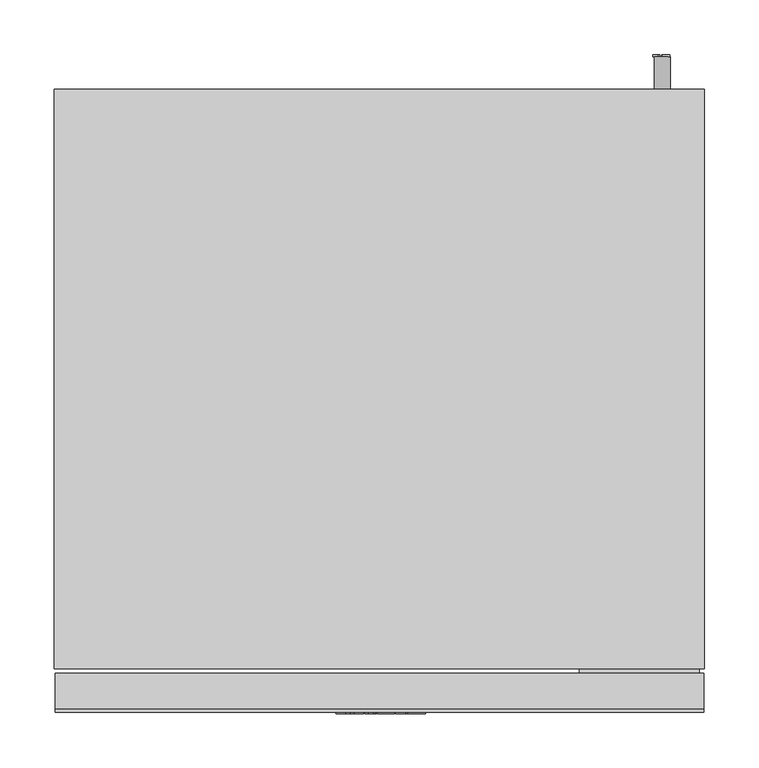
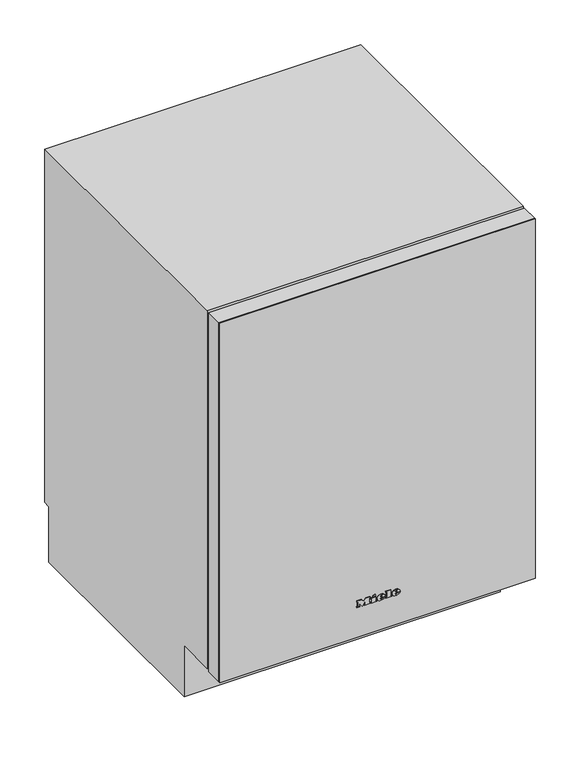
"""IFC4 building model written with IfcOpenShell, lengths in millimetres: proxy geometry, 10028650_USA_KWT6312UGS : 36631200_USA_10028650_KWT6312UGS."""

from ifc_helpers import new_model, si_unit, point, frame, frame_2d, origin, place, context, project, spatial, polyline, circle_curve, ellipse_curve, trimmed, segment, composite_curve, outline, extrude, faceted_brep, source, transform, mapped, element, save
from ifc_brep_helpers import plane_surface, cylinder_surface, revolved_surface, extruded_surface, advanced_brep


def specialty_equipment_6b9b5b4a(model_context):
    return source(origin(), model_context, "Body", "SolidModel", [
        faceted_brep([(233.5, 72.832547, 428.8783049), (233.5, 487.167453, 428.8783049), (203.5, 487.167453, 428.8783049), (203.5, 474.7903394, 428.8783049), (168.5, 474.7903394, 428.8783049), (168.5, 487.167453, 428.8783049), (138.5, 487.167453, 428.8783049), (138.5, 72.832547, 428.8783049), (168.5, 72.832547, 428.8783049), (168.5, 84.832547, 428.8783049), (203.5, 84.832547, 428.8783049), (203.5, 72.832547, 428.8783049), (138.5, 72.832547, 413.8783049), (138.5, 487.167453, 413.8783049), (233.5, 487.167453, 413.8783049), (233.5, 72.832547, 413.8783049), (203.5, 72.832547, 643.8783049), (168.5, 72.832547, 643.8783049), (168.5, 487.167453, 643.8783049), (203.5, 487.167453, 643.8783049), (203.5, 84.832547, 643.8783049), (193.5, 84.832547, 643.8783049), (193.5, 474.7903394, 643.8783049), (203.5, 474.7903394, 643.8783049), (168.5, 474.7903394, 643.8783049), (187.2040205, 474.7903394, 643.8783049), (187.2040205, 84.832547, 643.8783049), (168.5, 84.832547, 643.8783049), (187.2040205, 84.832547, 593.8783049), (168.5, 84.832547, 593.8783049), (168.5, 84.832547, 583.8783049), (193.5, 84.832547, 583.8783049), (168.5, 474.7903394, 593.8783049), (168.5, 474.7903394, 583.8783049), (193.5, 474.7903394, 583.8783049), (187.2040205, 474.7903394, 593.8783049)], [[[0, 1, 2, 3, 4, 5, 6, 7, 8, 9, 10, 11]], [[12, 13, 14, 15]], [[12, 15, 0, 11, 16, 17, 8, 7]], [[1, 0, 15, 14]], [[14, 13, 6, 5, 18, 19, 2, 1]], [[7, 6, 13, 12]], [[17, 16, 20, 21, 22, 23, 19, 18, 24, 25, 26, 27]], [[20, 16, 11, 10]], [[27, 26, 28, 29]], [[20, 10, 9, 30, 31, 21]], [[17, 27, 29, 32, 24, 18, 5, 4, 33, 30, 9, 8]], [[34, 31, 30, 33]], [[22, 21, 31, 34]], [[32, 29, 28, 35]], [[19, 23, 3, 2]], [[25, 24, 32, 35]], [[3, 23, 22, 34, 33, 4]], [[26, 25, 35, 28]]]),
        faceted_brep([(258.5, 50.0, 413.8783049), (258.5, 510.0, 413.8783049), (-258.5, 510.0, 413.8783049), (-258.5, 50.0, 413.8783049), (-101.5, 91.5, 413.8783049), (-214.5, 91.5, 413.8783049), (-214.5, 171.5, 413.8783049), (-101.5, 171.5, 413.8783049), (-101.5, 189.0, 413.8783049), (-214.5, 189.0, 413.8783049), (-214.5, 271.0, 413.8783049), (-101.5, 271.0, 413.8783049), (-101.5, 289.0, 413.8783049), (-214.5, 289.0, 413.8783049), (-214.5, 369.0, 413.8783049), (-101.5, 369.0, 413.8783049), (-101.5, 387.0, 413.8783049), (-214.5, 387.0, 413.8783049), (-214.5, 467.0, 413.8783049), (-101.5, 467.0, 413.8783049), (-258.5, 50.0, 404.3057414), (-258.5, 510.0, 404.3057414), (258.5, 510.0, 404.3057414), (258.5, 50.0, 404.3057414), (-93.5, 80.0, 404.3057414), (-93.5, 480.0, 404.3057414), (-222.5, 480.0, 404.3057414), (-222.5, 80.0, 404.3057414), (-258.5, 40.0, 396.2718916), (258.5, 40.0, 396.2718916), (258.5, 40.0, 399.2718916), (-258.5, 40.0, 399.2718916), (258.5, 40.0, 422.2718916), (-258.5, 40.0, 422.2718916), (-258.5, 40.0, 419.2718916), (258.5, 40.0, 419.2718916), (258.5, 50.0, 396.2718916), (258.5, 510.0, 396.2718916), (258.5, 520.0, 396.2718916), (258.5, 520.0, 399.2718916), (258.5, 519.4354278, 399.2718916), (258.5, 519.4354278, 419.2718916), (258.5, 520.0, 419.2718916), (258.5, 520.0, 422.2718916), (258.5, 510.0, 422.2718916), (258.5, 50.0, 422.2718916), (258.5, 41.0, 419.2718916), (258.5, 41.0, 399.2718916), (-258.5, 520.0, 422.2718916), (-258.5, 520.0, 419.2718916), (-258.5, 520.0, 396.2718916), (-258.5, 520.0, 399.2718916), (-258.5, 50.0, 422.2718916), (-258.5, 510.0, 422.2718916), (-258.5, 519.4354278, 419.2718916), (-258.5, 519.4354278, 399.2718916), (-258.5, 510.0, 396.2718916), (-258.5, 50.0, 396.2718916), (-258.5, 41.0, 399.2718916), (-258.5, 41.0, 419.2718916), (-93.5, 480.0, 335.3057414), (-93.5, 80.0, 335.3057414), (-222.5, 80.0, 335.3057414), (-222.5, 480.0, 335.3057414), (-101.5, 91.5, 363.2711747), (-214.5, 91.5, 363.2711747), (-101.5, 171.5, 363.2711747), (-214.5, 171.5, 363.2711747), (-101.5, 189.0, 363.2711747), (-214.5, 189.0, 363.2711747), (-101.5, 271.0, 363.2711747), (-214.5, 271.0, 363.2711747), (-101.5, 289.0, 363.2711747), (-214.5, 289.0, 363.2711747), (-101.5, 369.0, 363.2711747), (-214.5, 369.0, 363.2711747), (-101.5, 387.0, 363.2711747), (-214.5, 387.0, 363.2711747), (-101.5, 467.0, 363.2711747), (-214.5, 467.0, 363.2711747)], [[[0, 1, 2, 3], [4, 5, 6, 7], [8, 9, 10, 11], [12, 13, 14, 15], [16, 17, 18, 19]], [[20, 21, 22, 23], [24, 25, 26, 27]], [[28, 29, 30, 31]], [[32, 33, 34, 35]], [[29, 36, 23, 22, 37, 38, 39, 40, 41, 42, 43, 44, 1, 0, 45, 32, 35, 46, 47, 30]], [[48, 43, 42, 49]], [[38, 50, 51, 39]], [[33, 52, 3, 2, 53, 48, 49, 54, 55, 51, 50, 56, 21, 20, 57, 28, 31, 58, 59, 34]], [[52, 33, 32, 45]], [[52, 45, 0, 3]], [[36, 57, 20, 23]], [[28, 57, 36, 29]], [[48, 53, 44, 43]], [[56, 50, 38, 37]], [[44, 53, 2, 1]], [[56, 37, 22, 21]], [[60, 61, 62, 63]], [[61, 60, 25, 24]], [[62, 61, 24, 27]], [[63, 62, 27, 26]], [[60, 63, 26, 25]], [[64, 65, 5, 4]], [[66, 64, 4, 7]], [[67, 66, 7, 6]], [[65, 67, 6, 5]], [[68, 69, 9, 8]], [[70, 68, 8, 11]], [[71, 70, 11, 10]], [[69, 71, 10, 9]], [[72, 73, 13, 12]], [[74, 72, 12, 15]], [[75, 74, 15, 14]], [[73, 75, 14, 13]], [[76, 77, 17, 16]], [[78, 76, 16, 19]], [[79, 78, 19, 18]], [[77, 79, 18, 17]], [[54, 41, 40, 55]], [[41, 54, 49, 42]], [[55, 40, 39, 51]], [[65, 64, 66, 67]], [[69, 68, 70, 71]], [[73, 72, 74, 75]], [[77, 76, 78, 79]], [[58, 47, 46, 59]], [[47, 58, 31, 30]], [[59, 46, 35, 34]]]),
        advanced_brep(
        [(33.17, -1.0, 190.8261556), (33.17, -1.0, 192.1896556), (42.2015, -1.0, 192.1896556), (26.4875, -1.0, 192.1896556), (30.2, -1.0, 187.6266556), (41.972, -1.0, 190.8261556), (37.895, -1.0, 190.8261556), (34.682, -1.0, 189.3141556), (33.17, -1.0, 193.9176556), (33.17, -1.0, 195.3891556), (35.4785, -1.0, 195.3891556), (35.4785, -1.0, 193.9176556), (33.17, 0.0, 190.8261556), (34.682, 0.0, 189.3141556), (37.895, 0.0, 190.8261556), (41.972, 0.0, 190.8261556), (30.2, 0.0, 187.6266556), (26.4875, 0.0, 192.1896556), (42.2015, 0.0, 192.1896556), (33.17, 0.0, 192.1896556), (33.17, 0.0, 193.9176556), (35.4785, 0.0, 193.9176556), (35.4785, 0.0, 195.3891556), (33.17, 0.0, 195.3891556)],
        [
            (0, 1),
            (1, 2),
            (2, 3, ellipse_curve(frame((34.3445, -1.0, 192.1896556), z_axis=(0.0, -1.0, 0.0), x_axis=(-1.0, 0.0, 0.0)), 7.857, 6.4935)),
            (3, 4, circle_curve(frame((31.7120736, -1.0, 192.6486556), z_axis=(0.0, -1.0, 0.0), x_axis=(0.0, 0.0, -1.0)), 5.2446974)),
            (4, 5, circle_curve(frame((34.1872142, -1.0, 196.2126556), z_axis=(0.0, -1.0, 0.0), x_axis=(0.0, 0.0, -1.0)), 9.46664)),
            (5, 6),
            (6, 7, circle_curve(frame((35.3419118, -1.0, 192.0816556), z_axis=(0.0, 1.0, 0.0), x_axis=(0.0, 0.0, -1.0)), 2.8450905)),
            (7, 0, circle_curve(frame((34.682, -1.0, 190.8261556), z_axis=(0.0, 1.0, 0.0), x_axis=(0.0, 0.0, -1.0)), 1.512)),
            (8, 9),
            (9, 10, circle_curve(frame((34.32425, -1.0, 195.3891556), z_axis=(0.0, 1.0, 0.0), x_axis=(0.0, 0.0, -1.0)), 1.15425)),
            (10, 11),
            (11, 8),
            (12, 13, circle_curve(frame((34.682, 0.0, 190.8261556), z_axis=(0.0, -1.0, 0.0), x_axis=(0.0, 0.0, -1.0)), 1.512)),
            (13, 14, circle_curve(frame((35.3419118, 0.0, 192.0816556), z_axis=(0.0, -1.0, 0.0), x_axis=(0.0, 0.0, -1.0)), 2.8450905)),
            (14, 15),
            (15, 16, circle_curve(frame((34.1872142, 0.0, 196.2126556), z_axis=(0.0, 1.0, 0.0), x_axis=(0.0, 0.0, -1.0)), 9.46664)),
            (16, 17, circle_curve(frame((31.7120736, 0.0, 192.6486556), z_axis=(0.0, 1.0, 0.0), x_axis=(0.0, 0.0, -1.0)), 5.2446974)),
            (17, 18, ellipse_curve(frame((34.3445, 0.0, 192.1896556), z_axis=(0.0, 1.0, 0.0), x_axis=(-1.0, 0.0, 0.0)), 7.857, 6.4935)),
            (18, 19),
            (19, 12),
            (20, 21),
            (21, 22),
            (22, 23, circle_curve(frame((34.32425, 0.0, 195.3891556), z_axis=(0.0, -1.0, 0.0), x_axis=(0.0, 0.0, -1.0)), 1.15425)),
            (23, 20),
            (0, 12),
            (19, 1),
            (18, 2),
            (5, 15),
            (14, 6),
            (17, 3),
            (13, 7),
            (16, 4),
            (8, 20),
            (23, 9),
            (22, 10),
            (21, 11),
        ],
        [
            plane_surface(frame((33.17, -1.0, 192.1896556), z_axis=(0.0, -1.0, 0.0), x_axis=(0.0, 0.0, 1.0))),
            plane_surface(frame((33.17, 0.0, 192.1896556), z_axis=(0.0, 1.0, 0.0), x_axis=(0.0, 0.0, -1.0))),
            plane_surface(frame((33.17, -1.0, 190.8261556), z_axis=(1.0, 0.0, 0.0), x_axis=(0.0, 1.0, 0.0))),
            plane_surface(frame((33.17, -1.0, 192.1896556), z_axis=(0.0, 0.0, -1.0), x_axis=(0.0, 1.0, 0.0))),
            plane_surface(frame((41.972, -1.0, 190.8261556), z_axis=(0.0, 0.0, 1.0), x_axis=(0.0, 1.0, 0.0))),
            extruded_surface(trimmed(ellipse_curve(frame((34.3445, 1.0, 192.1896556), z_axis=(0.0, -1.0, 0.0), x_axis=(-1.0, 0.0, 0.0)), 7.857, 6.4935), [point((42.2015, 1.0, 192.1896556))], [point((26.4875, 1.0, 192.1896556))], True, "CARTESIAN"), (0.0, -1.0, 0.0), 1.0),
            revolved_surface(polyline([(35.3419118, 0.0, 189.2365651), (35.3419118, -1.0, 189.2365651)]), (35.3419118, 0.0, 192.0816556), (0.0, 1.0, 0.0)),
            revolved_surface(polyline([(34.682, 0.0, 189.3141556), (34.682, -1.0, 189.3141556)]), (34.682, 0.0, 190.8261556), (0.0, 1.0, 0.0)),
            cylinder_surface(frame((31.7120736, 0.0, 192.6486556), z_axis=(0.0, -1.0, 0.0), x_axis=(0.0, 0.0, -1.0)), 5.2446974),
            cylinder_surface(frame((34.1872142, 0.0, 196.2126556), z_axis=(0.0, -1.0, 0.0), x_axis=(0.0, 0.0, -1.0)), 9.46664),
            plane_surface(frame((33.17, -1.0, 193.9176556), z_axis=(1.0, 0.0, 0.0), x_axis=(0.0, 1.0, 0.0))),
            revolved_surface(polyline([(34.32425, 0.0, 194.23490560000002), (34.32425, -1.0, 194.23490560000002)]), (34.32425, 0.0, 195.3891556), (0.0, 1.0, 0.0)),
            plane_surface(frame((35.4785, -1.0, 195.3891556), z_axis=(-1.0, 0.0, 0.0), x_axis=(0.0, 1.0, 0.0))),
            plane_surface(frame((35.4785, -1.0, 193.9176556), z_axis=(0.0, 0.0, 1.0), x_axis=(0.0, 1.0, 0.0))),
        ],
        [
            (0, [[1, 2, 3, 4, 5, 6, 7, 8], [9, 10, 11, 12]]),
            (1, [[13, 14, 15, 16, 17, 18, 19, 20], [21, 22, 23, 24]]),
            (2, [[-1, 25, -20, 26]]),
            (3, [[-2, -26, -19, 27]]),
            (4, [[-6, 28, -15, 29]]),
            (5, [[-3, -27, -18, 30]]),
            (6, [[-7, -29, -14, 31]]),
            (7, [[-8, -31, -13, -25]]),
            (8, [[-4, -30, -17, 32]]),
            (9, [[-5, -32, -16, -28]]),
            (10, [[-9, 33, -24, 34]]),
            (11, [[-10, -34, -23, 35]]),
            (12, [[-11, -35, -22, 36]]),
            (13, [[-12, -36, -21, -33]]),
        ],
    ),
        advanced_brep(
        [(4.9955, -1.0, 190.8261556), (4.9955, -1.0, 192.1896556), (14.027, -1.0, 192.1896556), (-1.687, -1.0, 192.1896556), (2.0255, -1.0, 187.6266556), (13.7975, -1.0, 190.8261556), (9.7205, -1.0, 190.8261556), (6.5075, -1.0, 189.3141556), (4.9955, -1.0, 193.9176556), (4.9955, -1.0, 195.3891556), (7.304, -1.0, 195.3891556), (7.304, -1.0, 193.9176556), (4.9955, 0.0, 190.8261556), (6.5075, 0.0, 189.3141556), (9.7205, 0.0, 190.8261556), (13.7975, 0.0, 190.8261556), (2.0255, 0.0, 187.6266556), (-1.687, 0.0, 192.1896556), (14.027, 0.0, 192.1896556), (4.9955, 0.0, 192.1896556), (4.9955, 0.0, 193.9176556), (7.304, 0.0, 193.9176556), (7.304, 0.0, 195.3891556), (4.9955, 0.0, 195.3891556)],
        [
            (0, 1),
            (1, 2),
            (2, 3, ellipse_curve(frame((6.17, -1.0, 192.1896556), z_axis=(0.0, -1.0, 0.0), x_axis=(-1.0, 0.0, 0.0)), 7.857, 6.4935)),
            (3, 4, circle_curve(frame((3.5375736, -1.0, 192.6486556), z_axis=(0.0, -1.0, 0.0), x_axis=(0.0, 0.0, -1.0)), 5.2446974)),
            (4, 5, circle_curve(frame((6.0127142, -1.0, 196.2126556), z_axis=(0.0, -1.0, 0.0), x_axis=(0.0, 0.0, -1.0)), 9.46664)),
            (5, 6),
            (6, 7, circle_curve(frame((7.1674118, -1.0, 192.0816556), z_axis=(0.0, 1.0, 0.0), x_axis=(0.0, 0.0, -1.0)), 2.8450905)),
            (7, 0, circle_curve(frame((6.5075, -1.0, 190.8261556), z_axis=(0.0, 1.0, 0.0), x_axis=(0.0, 0.0, -1.0)), 1.512)),
            (8, 9),
            (9, 10, circle_curve(frame((6.14975, -1.0, 195.3891556), z_axis=(0.0, 1.0, 0.0), x_axis=(0.0, 0.0, -1.0)), 1.15425)),
            (10, 11),
            (11, 8),
            (12, 13, circle_curve(frame((6.5075, 0.0, 190.8261556), z_axis=(0.0, -1.0, 0.0), x_axis=(0.0, 0.0, -1.0)), 1.512)),
            (13, 14, circle_curve(frame((7.1674118, 0.0, 192.0816556), z_axis=(0.0, -1.0, 0.0), x_axis=(0.0, 0.0, -1.0)), 2.8450905)),
            (14, 15),
            (15, 16, circle_curve(frame((6.0127142, 0.0, 196.2126556), z_axis=(0.0, 1.0, 0.0), x_axis=(0.0, 0.0, -1.0)), 9.46664)),
            (16, 17, circle_curve(frame((3.5375736, 0.0, 192.6486556), z_axis=(0.0, 1.0, 0.0), x_axis=(0.0, 0.0, -1.0)), 5.2446974)),
            (17, 18, ellipse_curve(frame((6.17, 0.0, 192.1896556), z_axis=(0.0, 1.0, 0.0), x_axis=(-1.0, 0.0, 0.0)), 7.857, 6.4935)),
            (18, 19),
            (19, 12),
            (20, 21),
            (21, 22),
            (22, 23, circle_curve(frame((6.14975, 0.0, 195.3891556), z_axis=(0.0, -1.0, 0.0), x_axis=(0.0, 0.0, -1.0)), 1.15425)),
            (23, 20),
            (0, 12),
            (19, 1),
            (18, 2),
            (5, 15),
            (14, 6),
            (17, 3),
            (13, 7),
            (16, 4),
            (8, 20),
            (23, 9),
            (22, 10),
            (21, 11),
        ],
        [
            plane_surface(frame((4.9955, -1.0, 192.1896556), z_axis=(0.0, -1.0, 0.0), x_axis=(0.0, 0.0, 1.0))),
            plane_surface(frame((4.9955, 0.0, 192.1896556), z_axis=(0.0, 1.0, 0.0), x_axis=(0.0, 0.0, -1.0))),
            plane_surface(frame((4.9955, -1.0, 190.8261556), z_axis=(1.0, 0.0, 0.0), x_axis=(0.0, 1.0, 0.0))),
            plane_surface(frame((4.9955, -1.0, 192.1896556), z_axis=(0.0, 0.0, -1.0), x_axis=(0.0, 1.0, 0.0))),
            plane_surface(frame((13.7975, -1.0, 190.8261556), z_axis=(0.0, 0.0, 1.0), x_axis=(0.0, 1.0, 0.0))),
            extruded_surface(trimmed(ellipse_curve(frame((6.17, 1.0, 192.1896556), z_axis=(0.0, -1.0, 0.0), x_axis=(-1.0, 0.0, 0.0)), 7.857, 6.4935), [point((14.027, 1.0, 192.1896556))], [point((-1.687, 1.0, 192.1896556))], True, "CARTESIAN"), (0.0, -1.0, 0.0), 1.0),
            revolved_surface(polyline([(7.1674118, 0.0, 189.2365651), (7.1674118, -1.0, 189.2365651)]), (7.1674118, 0.0, 192.0816556), (0.0, 1.0, 0.0)),
            revolved_surface(polyline([(6.5075, 0.0, 189.3141556), (6.5075, -1.0, 189.3141556)]), (6.5075, 0.0, 190.8261556), (0.0, 1.0, 0.0)),
            cylinder_surface(frame((3.5375736, 0.0, 192.6486556), z_axis=(0.0, -1.0, 0.0), x_axis=(0.0, 0.0, -1.0)), 5.2446974),
            cylinder_surface(frame((6.0127142, 0.0, 196.2126556), z_axis=(0.0, -1.0, 0.0), x_axis=(0.0, 0.0, -1.0)), 9.46664),
            plane_surface(frame((4.9955, -1.0, 193.9176556), z_axis=(1.0, 0.0, 0.0), x_axis=(0.0, 1.0, 0.0))),
            revolved_surface(polyline([(6.14975, 0.0, 194.23490560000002), (6.14975, -1.0, 194.23490560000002)]), (6.14975, 0.0, 195.3891556), (0.0, 1.0, 0.0)),
            plane_surface(frame((7.304, -1.0, 195.3891556), z_axis=(-1.0, 0.0, 0.0), x_axis=(0.0, 1.0, 0.0))),
            plane_surface(frame((7.304, -1.0, 193.9176556), z_axis=(0.0, 0.0, 1.0), x_axis=(0.0, 1.0, 0.0))),
        ],
        [
            (0, [[1, 2, 3, 4, 5, 6, 7, 8], [9, 10, 11, 12]]),
            (1, [[13, 14, 15, 16, 17, 18, 19, 20], [21, 22, 23, 24]]),
            (2, [[-1, 25, -20, 26]]),
            (3, [[-2, -26, -19, 27]]),
            (4, [[-6, 28, -15, 29]]),
            (5, [[-3, -27, -18, 30]]),
            (6, [[-7, -29, -14, 31]]),
            (7, [[-8, -31, -13, -25]]),
            (8, [[-4, -30, -17, 32]]),
            (9, [[-5, -32, -16, -28]]),
            (10, [[-9, 33, -24, 34]]),
            (11, [[-10, -34, -23, 35]]),
            (12, [[-11, -35, -22, 36]]),
            (13, [[-12, -36, -21, -33]]),
        ],
    ),
        extrude(outline(polyline([(200.3301556, -9.76), (198.1431556, -8.734), (200.2761556, -4.1575), (202.4631556, -5.17), (200.3301556, -9.76)])), frame((0.0, -1.0, 0.0), z_axis=(0.0, 1.0, 0.0), x_axis=(0.0, 0.0, 1.0)), (0.0, 0.0, 1.0), 1.0),
        extrude(outline(polyline([(197.8461556, -13.0945), (195.4296556, -13.0945), (195.4296556, -11.488), (189.8946556, -11.488), (189.8946556, -13.0945), (187.6266556, -13.0945), (187.6266556, -2.443), (189.8946556, -2.443), (189.8946556, -4.009), (197.8461556, -4.009), (197.8461556, -13.0945)])), frame((0.0, -1.0, 0.0), z_axis=(0.0, 1.0, 0.0), x_axis=(0.0, 0.0, 1.0)), (0.0, 0.0, 1.0), 1.0),
        extrude(outline(polyline([(198.9261556, 14.783), (198.9261556, 16.403), (189.8946556, 16.403), (189.8946556, 14.783), (187.6266556, 14.783), (187.6266556, 25.7315), (189.8946556, 25.7315), (189.8946556, 24.071), (201.1266556, 24.071), (201.1266556, 14.783), (198.9261556, 14.783)])), frame((0.0, -1.0, 0.0), z_axis=(0.0, 1.0, 0.0), x_axis=(0.0, 0.0, 1.0)), (0.0, 0.0, 1.0), 1.0),
        extrude(outline(polyline([(198.9261556, -40.0), (198.9261556, -38.3665), (189.8946556, -38.3665), (189.8946556, -40.0), (187.6266556, -40.0), (187.6266556, -34.06), (189.8946556, -34.06), (189.8946556, -35.68), (195.6022804, -35.68), (187.6266556, -29.6455), (195.8793779, -23.584), (189.8946556, -23.584), (189.8946556, -25.2445), (187.6266556, -25.2445), (187.6266556, -14.4715), (189.8946556, -14.4715), (189.8946556, -16.186), (198.9261556, -16.186), (198.9261556, -14.4715), (201.1266556, -14.4715), (201.1266556, -22.693), (196.0641556, -26.635), (201.1266556, -30.5905), (201.1266556, -40.0), (198.9261556, -40.0)])), frame((0.0, -1.0, 0.0), z_axis=(0.0, 1.0, 0.0), x_axis=(0.0, 0.0, 1.0)), (0.0, 0.0, 1.0), 1.0),
        extrude(outline(composite_curve([segment(trimmed(circle_curve(frame_2d((136.3057414, 260.0)), 7.5), [point((136.3057414, 267.5))], [point((136.3057414, 252.5))], False, "CARTESIAN"), True, "CONTINUOUS"), segment(trimmed(circle_curve(frame_2d((136.3057414, 260.0)), 7.5), [point((136.3057414, 252.5))], [point((136.3057414, 267.5))], False, "CARTESIAN"), True, "CONTINUOUS")], self_intersect=False)), frame((0.0, 572.0, 0.0), z_axis=(0.0, 1.0, 0.0), x_axis=(0.0, 0.0, 1.0)), (0.0, 0.0, 1.0), 30.0),
        advanced_brep(
        [(298.5, 572.0, 846.3057414), (-298.5, 572.0, 846.3057414), (-298.5, 40.0, 846.3057414), (298.5, 40.0, 846.3057414), (295.0, 497.0, 28.3057414), (262.0, 497.0, 28.3057414), (-262.0, 497.0, 28.3057414), (-295.0, 497.0, 28.3057414), (-262.0, 137.0, 28.3057414), (-295.0, 137.0, 28.3057414), (295.0, 137.0, 28.3057414), (262.0, 137.0, 28.3057414), (298.5, 572.0, 141.3057414), (-298.5, 572.0, 141.3057414), (-298.5, 558.5607135, 141.3057414), (-298.5, 558.5607135, 30.3057414), (-298.5, 116.0, 30.3057414), (-298.5, 116.0, 132.3057414), (-298.5, 40.0, 132.3057414), (298.5, 40.0, 132.3057414), (-258.5, 40.0, 751.3057414), (258.5, 40.0, 751.3057414), (258.5, 40.0, 208.3057414), (-258.5, 40.0, 208.3057414), (298.5, 116.0, 132.3057414), (298.5, 116.0, 30.3057414), (298.5, 558.5607135, 30.3057414), (298.5, 558.5607135, 141.3057414), (258.5, 520.0, 751.3057414), (-258.5, 520.0, 751.3057414), (-258.5, 520.0, 208.3057414), (258.5, 520.0, 208.3057414), (295.0, 497.0, 30.3057414), (262.0, 497.0, 30.3057414), (-262.0, 497.0, 30.3057414), (-295.0, 497.0, 30.3057414), (-262.0, 137.0, 30.3057414), (-295.0, 137.0, 30.3057414), (295.0, 137.0, 30.3057414), (262.0, 137.0, 30.3057414)],
        [
            (0, 1),
            (1, 2),
            (2, 3),
            (3, 0),
            (4, 5, circle_curve(frame((278.5, 497.0, 28.3057414), z_axis=(0.0, 0.0, -1.0), x_axis=(-1.0, 0.0, 0.0)), 16.5)),
            (5, 4, circle_curve(frame((278.5, 497.0, 28.3057414), z_axis=(0.0, 0.0, -1.0), x_axis=(-1.0, 0.0, 0.0)), 16.5)),
            (6, 7, circle_curve(frame((-278.5, 497.0, 28.3057414), z_axis=(0.0, 0.0, -1.0), x_axis=(-1.0, 0.0, 0.0)), 16.5)),
            (7, 6, circle_curve(frame((-278.5, 497.0, 28.3057414), z_axis=(0.0, 0.0, -1.0), x_axis=(-1.0, 0.0, 0.0)), 16.5)),
            (8, 9, circle_curve(frame((-278.5, 137.0, 28.3057414), z_axis=(0.0, 0.0, -1.0), x_axis=(-1.0, 0.0, 0.0)), 16.5)),
            (9, 8, circle_curve(frame((-278.5, 137.0, 28.3057414), z_axis=(0.0, 0.0, -1.0), x_axis=(-1.0, 0.0, 0.0)), 16.5)),
            (10, 11, circle_curve(frame((278.5, 137.0, 28.3057414), z_axis=(0.0, 0.0, -1.0), x_axis=(-1.0, 0.0, 0.0)), 16.5)),
            (11, 10, circle_curve(frame((278.5, 137.0, 28.3057414), z_axis=(0.0, 0.0, -1.0), x_axis=(-1.0, 0.0, 0.0)), 16.5)),
            (0, 12),
            (12, 13),
            (13, 1),
            (13, 14),
            (14, 15),
            (15, 16),
            (16, 17),
            (17, 18),
            (18, 2),
            (18, 19),
            (19, 3),
            (20, 21),
            (21, 22),
            (22, 23),
            (23, 20),
            (19, 24),
            (24, 25),
            (25, 26),
            (26, 27),
            (27, 12),
            (28, 29),
            (29, 30),
            (30, 31),
            (31, 28),
            (28, 21),
            (20, 29),
            (23, 30),
            (22, 31),
            (25, 16),
            (15, 26),
            (32, 33, circle_curve(frame((278.5, 497.0, 30.3057414), z_axis=(0.0, 0.0, 1.0), x_axis=(-1.0, 0.0, 0.0)), 16.5)),
            (33, 32, circle_curve(frame((278.5, 497.0, 30.3057414), z_axis=(0.0, 0.0, 1.0), x_axis=(-1.0, 0.0, 0.0)), 16.5)),
            (34, 35, circle_curve(frame((-278.5, 497.0, 30.3057414), z_axis=(0.0, 0.0, 1.0), x_axis=(-1.0, 0.0, 0.0)), 16.5)),
            (35, 34, circle_curve(frame((-278.5, 497.0, 30.3057414), z_axis=(0.0, 0.0, 1.0), x_axis=(-1.0, 0.0, 0.0)), 16.5)),
            (36, 37, circle_curve(frame((-278.5, 137.0, 30.3057414), z_axis=(0.0, 0.0, 1.0), x_axis=(-1.0, 0.0, 0.0)), 16.5)),
            (37, 36, circle_curve(frame((-278.5, 137.0, 30.3057414), z_axis=(0.0, 0.0, 1.0), x_axis=(-1.0, 0.0, 0.0)), 16.5)),
            (38, 39, circle_curve(frame((278.5, 137.0, 30.3057414), z_axis=(0.0, 0.0, 1.0), x_axis=(-1.0, 0.0, 0.0)), 16.5)),
            (39, 38, circle_curve(frame((278.5, 137.0, 30.3057414), z_axis=(0.0, 0.0, 1.0), x_axis=(-1.0, 0.0, 0.0)), 16.5)),
            (33, 5),
            (4, 32),
            (35, 7),
            (6, 34),
            (37, 9),
            (8, 36),
            (39, 11),
            (10, 38),
            (24, 17),
            (14, 27),
        ],
        [
            plane_surface(frame((-298.5, 572.0, 846.3057414), z_axis=(0.0, 0.0, 1.0), x_axis=(-1.0, 0.0, 0.0))),
            plane_surface(frame((-298.5, 572.0, 28.3057414), z_axis=(0.0, 0.0, -1.0), x_axis=(1.0, 0.0, 0.0))),
            plane_surface(frame((298.5, 572.0, 846.3057414), z_axis=(0.0, 1.0, 0.0), x_axis=(0.0, 0.0, -1.0))),
            plane_surface(frame((-298.5, 572.0, 846.3057414), z_axis=(-1.0, 0.0, 0.0), x_axis=(0.0, 0.0, -1.0))),
            plane_surface(frame((-298.5, 40.0, 846.3057414), z_axis=(0.0, -1.0, 0.0), x_axis=(0.0, 0.0, -1.0))),
            plane_surface(frame((298.5, 40.0, 846.3057414), z_axis=(1.0, 0.0, 0.0), x_axis=(0.0, 0.0, -1.0))),
            plane_surface(frame((-258.5, 520.0, 751.3057414), z_axis=(0.0, -1.0, 0.0), x_axis=(1.0, 0.0, 0.0))),
            plane_surface(frame((258.5, 40.0, 751.3057414), z_axis=(0.0, 0.0, -1.0), x_axis=(0.0, 1.0, 0.0))),
            plane_surface(frame((-258.5, 40.0, 751.3057414), z_axis=(1.0, 0.0, 0.0), x_axis=(0.0, 1.0, 0.0))),
            plane_surface(frame((-258.5, 40.0, 208.3057414), z_axis=(0.0, 0.0, 1.0), x_axis=(0.0, 1.0, 0.0))),
            plane_surface(frame((258.5, 40.0, 208.3057414), z_axis=(-1.0, 0.0, 0.0), x_axis=(0.0, 1.0, 0.0))),
            plane_surface(frame((-298.5, 572.0, 30.3057414), z_axis=(0.0, 0.0, -1.0), x_axis=(-1.0, 0.0, 0.0))),
            cylinder_surface(frame((278.5, 497.0, 28.3057414), z_axis=(0.0, 0.0, -1.0), x_axis=(-1.0, 0.0, 0.0)), 16.5),
            cylinder_surface(frame((-278.5, 497.0, 28.3057414), z_axis=(0.0, 0.0, -1.0), x_axis=(-1.0, 0.0, 0.0)), 16.5),
            cylinder_surface(frame((-278.5, 137.0, 28.3057414), z_axis=(0.0, 0.0, -1.0), x_axis=(-1.0, 0.0, 0.0)), 16.5),
            cylinder_surface(frame((278.5, 137.0, 28.3057414), z_axis=(0.0, 0.0, -1.0), x_axis=(-1.0, 0.0, 0.0)), 16.5),
            plane_surface(frame((298.5, 116.0, 132.3057414), z_axis=(0.0, -1.0, 0.0), x_axis=(0.0, 0.0, -1.0))),
            plane_surface(frame((-298.5, 116.0, 132.3057414), z_axis=(0.0, 0.0, -1.0), x_axis=(0.0, -1.0, 0.0))),
            plane_surface(frame((298.5, 558.5607135, 141.3057414), z_axis=(0.0, 1.0, 0.0), x_axis=(-1.0, 0.0, 0.0))),
            plane_surface(frame((-298.5, 572.0, 141.3057414), z_axis=(0.0, 0.0, -1.0), x_axis=(0.0, -1.0, 0.0))),
        ],
        [
            (0, [[1, 2, 3, 4]]),
            (1, [[5, 6]]),
            (1, [[7, 8]]),
            (1, [[9, 10]]),
            (1, [[11, 12]]),
            (2, [[-1, 13, 14, 15]]),
            (3, [[-2, -15, 16, 17, 18, 19, 20, 21]]),
            (4, [[-3, -21, 22, 23], [24, 25, 26, 27]]),
            (5, [[-4, -23, 28, 29, 30, 31, 32, -13]]),
            (6, [[33, 34, 35, 36]]),
            (7, [[-33, 37, -24, 38]]),
            (8, [[-34, -38, -27, 39]]),
            (9, [[-35, -39, -26, 40]]),
            (10, [[-36, -40, -25, -37]]),
            (11, [[41, -18, 42, -30], [43, 44], [45, 46], [47, 48], [49, 50]]),
            (12, [[-44, 51, -5, 52]]),
            (12, [[-43, -52, -6, -51]]),
            (13, [[-46, 53, -7, 54]]),
            (13, [[-45, -54, -8, -53]]),
            (14, [[-48, 55, -9, 56]]),
            (14, [[-47, -56, -10, -55]]),
            (15, [[-50, 57, -11, 58]]),
            (15, [[-49, -58, -12, -57]]),
            (16, [[59, -19, -41, -29]]),
            (17, [[-59, -28, -22, -20]]),
            (18, [[60, -31, -42, -17]]),
            (19, [[-60, -16, -14, -32]]),
        ],
    ),
        extrude(outline(polyline([(258.5, 347.0), (-258.5, 347.0), (-258.5, 520.0), (258.5, 520.0), (258.5, 347.0)])), frame((0.0, 0.0, 208.3057414), z_axis=(0.0, 0.0, 1.0), x_axis=(1.0, 0.0, 0.0)), (0.0, 0.0, 1.0), 74.0),
        extrude(outline(polyline([(257.5, 52.0), (-257.5, 52.0), (-257.5, 91.0), (257.5, 91.0), (257.5, 52.0)])), frame((0.0, 0.0, 696.3057414), z_axis=(0.0, 0.0, 1.0), x_axis=(1.0, 0.0, 0.0)), (0.0, 0.0, 1.0), 54.0),
        extrude(outline(composite_curve([segment(trimmed(circle_curve(frame_2d((136.3057414, 260.0)), 7.5), [point((136.3057414, 252.5))], [point((136.3057414, 267.5))], False, "CARTESIAN"), True, "CONTINUOUS"), segment(trimmed(circle_curve(frame_2d((136.3057414, 260.0)), 7.5), [point((136.3057414, 267.5))], [point((136.3057414, 252.5))], False, "CARTESIAN"), True, "CONTINUOUS")], self_intersect=False)), frame((0.0, 558.5607135, 0.0), z_axis=(0.0, 1.0, 0.0), x_axis=(0.0, 0.0, 1.0)), (0.0, 0.0, 1.0), 13.4392865),
        extrude(outline(polyline([(131.7925433, 267.0257364), (141.8381743, 267.0257364), (141.8381743, 259.8054391), (140.5824704, 259.8054391), (140.5824704, 265.7700325), (137.6001737, 265.7700325), (137.6001737, 260.119365), (136.3444698, 260.119365), (136.3444698, 265.7700325), (133.0482472, 265.7700325), (133.0482472, 259.6484761), (131.7925433, 259.6484761), (131.7925433, 267.0257364)])), frame((0.0, 602.0, 0.0), z_axis=(0.0, 1.0, 0.0), x_axis=(0.0, 0.0, 1.0)), (0.0, 0.0, 1.0), 2.0),
        extrude(outline(polyline([(131.7925433, 257.7649203), (141.8381743, 257.7649203), (141.8381743, 256.5092164), (133.0482472, 256.5092164), (133.0482472, 251.4864009), (131.7925433, 251.4864009), (131.7925433, 257.7649203)])), frame((0.0, 602.0, 0.0), z_axis=(0.0, 1.0, 0.0), x_axis=(0.0, 0.0, 1.0)), (0.0, 0.0, 1.0), 2.0),
        extrude(outline(polyline([(10.0, 47.0438353), (-10.0, 47.0438353), (-10.0, 520.0), (10.0, 520.0), (10.0, 47.0438353)])), frame((0.0, 0.0, 309.3057414), z_axis=(0.0, 0.0, 1.0), x_axis=(1.0, 0.0, 0.0)), (0.0, 0.0, 1.0), 10.0),
        extrude(outline(polyline([(-47.125, 47.0438353), (-67.125, 47.0438353), (-67.125, 520.0), (-47.125, 520.0), (-47.125, 47.0438353)])), frame((0.0, 0.0, 309.3057414), z_axis=(0.0, 0.0, 1.0), x_axis=(1.0, 0.0, 0.0)), (0.0, 0.0, 1.0), 10.0),
        extrude(outline(polyline([(-104.25, 47.0438353), (-124.25, 47.0438353), (-124.25, 520.0), (-104.25, 520.0), (-104.25, 47.0438353)])), frame((0.0, 0.0, 309.3057414), z_axis=(0.0, 0.0, 1.0), x_axis=(1.0, 0.0, 0.0)), (0.0, 0.0, 1.0), 10.0),
        extrude(outline(polyline([(-161.375, 47.0438353), (-181.375, 47.0438353), (-181.375, 520.0), (-161.375, 520.0), (-161.375, 47.0438353)])), frame((0.0, 0.0, 309.3057414), z_axis=(0.0, 0.0, 1.0), x_axis=(1.0, 0.0, 0.0)), (0.0, 0.0, 1.0), 10.0),
        extrude(outline(polyline([(-218.5, 47.0438353), (-238.5, 47.0438353), (-238.5, 520.0), (-218.5, 520.0), (-218.5, 47.0438353)])), frame((0.0, 0.0, 309.3057414), z_axis=(0.0, 0.0, 1.0), x_axis=(1.0, 0.0, 0.0)), (0.0, 0.0, 1.0), 10.0),
        extrude(outline(polyline([(67.125, 47.0438353), (47.125, 47.0438353), (47.125, 520.0), (67.125, 520.0), (67.125, 47.0438353)])), frame((0.0, 0.0, 309.3057414), z_axis=(0.0, 0.0, 1.0), x_axis=(1.0, 0.0, 0.0)), (0.0, 0.0, 1.0), 10.0),
        extrude(outline(polyline([(124.25, 47.0438353), (104.25, 47.0438353), (104.25, 520.0), (124.25, 520.0), (124.25, 47.0438353)])), frame((0.0, 0.0, 309.3057414), z_axis=(0.0, 0.0, 1.0), x_axis=(1.0, 0.0, 0.0)), (0.0, 0.0, 1.0), 10.0),
        extrude(outline(polyline([(181.375, 47.0438353), (161.375, 47.0438353), (161.375, 520.0), (181.375, 520.0), (181.375, 47.0438353)])), frame((0.0, 0.0, 309.3057414), z_axis=(0.0, 0.0, 1.0), x_axis=(1.0, 0.0, 0.0)), (0.0, 0.0, 1.0), 10.0),
        extrude(outline(polyline([(238.5, 47.0438353), (218.5, 47.0438353), (218.5, 520.0), (238.5, 520.0), (238.5, 47.0438353)])), frame((0.0, 0.0, 309.3057414), z_axis=(0.0, 0.0, 1.0), x_axis=(1.0, 0.0, 0.0)), (0.0, 0.0, 1.0), 10.0),
        extrude(outline(polyline([(10.0, 44.8678355), (-10.0, 44.8678355), (-10.0, 347.0), (10.0, 347.0), (10.0, 44.8678355)])), frame((0.0, 0.0, 216.3057414), z_axis=(0.0, 0.0, 1.0), x_axis=(1.0, 0.0, 0.0)), (0.0, 0.0, 1.0), 10.0),
        extrude(outline(polyline([(-47.125, 44.8678355), (-67.125, 44.8678355), (-67.125, 347.0), (-47.125, 347.0), (-47.125, 44.8678355)])), frame((0.0, 0.0, 216.3057414), z_axis=(0.0, 0.0, 1.0), x_axis=(1.0, 0.0, 0.0)), (0.0, 0.0, 1.0), 10.0),
        extrude(outline(polyline([(-104.25, 44.8678355), (-124.25, 44.8678355), (-124.25, 347.0), (-104.25, 347.0), (-104.25, 44.8678355)])), frame((0.0, 0.0, 216.3057414), z_axis=(0.0, 0.0, 1.0), x_axis=(1.0, 0.0, 0.0)), (0.0, 0.0, 1.0), 10.0),
        extrude(outline(polyline([(-161.375, 44.8678355), (-181.375, 44.8678355), (-181.375, 347.0), (-161.375, 347.0), (-161.375, 44.8678355)])), frame((0.0, 0.0, 216.3057414), z_axis=(0.0, 0.0, 1.0), x_axis=(1.0, 0.0, 0.0)), (0.0, 0.0, 1.0), 10.0),
        extrude(outline(polyline([(-218.5, 44.8678355), (-238.5, 44.8678355), (-238.5, 347.0), (-218.5, 347.0), (-218.5, 44.8678355)])), frame((0.0, 0.0, 216.3057414), z_axis=(0.0, 0.0, 1.0), x_axis=(1.0, 0.0, 0.0)), (0.0, 0.0, 1.0), 10.0),
        extrude(outline(polyline([(67.125, 44.8678355), (47.125, 44.8678355), (47.125, 347.0), (67.125, 347.0), (67.125, 44.8678355)])), frame((0.0, 0.0, 216.3057414), z_axis=(0.0, 0.0, 1.0), x_axis=(1.0, 0.0, 0.0)), (0.0, 0.0, 1.0), 10.0),
        extrude(outline(polyline([(124.25, 44.8678355), (104.25, 44.8678355), (104.25, 347.0), (124.25, 347.0), (124.25, 44.8678355)])), frame((0.0, 0.0, 216.3057414), z_axis=(0.0, 0.0, 1.0), x_axis=(1.0, 0.0, 0.0)), (0.0, 0.0, 1.0), 10.0),
        extrude(outline(polyline([(181.375, 44.8678355), (161.375, 44.8678355), (161.375, 347.0), (181.375, 347.0), (181.375, 44.8678355)])), frame((0.0, 0.0, 216.3057414), z_axis=(0.0, 0.0, 1.0), x_axis=(1.0, 0.0, 0.0)), (0.0, 0.0, 1.0), 10.0),
        extrude(outline(polyline([(238.5, 44.8678355), (218.5, 44.8678355), (218.5, 347.0), (238.5, 347.0), (238.5, 44.8678355)])), frame((0.0, 0.0, 216.3057414), z_axis=(0.0, 0.0, 1.0), x_axis=(1.0, 0.0, 0.0)), (0.0, 0.0, 1.0), 10.0),
        extrude(outline(polyline([(50.0, 327.6838812), (50.0, 301.3057414), (40.0, 301.3057414), (40.0, 304.3057414), (40.8925608, 304.3057414), (40.8925608, 324.0718745), (40.0, 324.0718745), (40.0, 327.6838812), (50.0, 327.6838812)])), frame((-258.5, 0.0, 0.0), z_axis=(1.0, 0.0, 0.0), x_axis=(0.0, 1.0, 0.0)), (0.0, 0.0, 1.0), 517.0),
        extrude(outline(polyline([(50.0, 234.6838812), (50.0, 208.3057414), (40.0, 208.3057414), (40.0, 211.3057414), (40.8925608, 211.3057414), (40.8925608, 231.0718745), (40.0, 231.0718745), (40.0, 234.6838812), (50.0, 234.6838812)])), frame((-258.5, 0.0, 0.0), z_axis=(1.0, 0.0, 0.0), x_axis=(0.0, 1.0, 0.0)), (0.0, 0.0, 1.0), 517.0),
        extrude(outline(polyline([(298.0, 0.0), (-298.0, 0.0), (-298.0, 3.0), (298.0, 3.0), (298.0, 0.0)])), frame((0.0, 0.0, 128.3057414), z_axis=(0.0, 0.0, 1.0), x_axis=(1.0, 0.0, 0.0)), (0.0, 0.0, 1.0), 717.0),
        extrude(outline(polyline([(184.0, 52.0), (294.0, 52.0), (294.0, 12.0), (184.0, 12.0), (184.0, 52.0)])), frame((0.0, 0.0, 791.3057414), z_axis=(0.0, 0.0, 1.0), x_axis=(1.0, 0.0, 0.0)), (0.0, 0.0, 1.0), 45.0),
        extrude(outline(polyline([(184.0, 52.0), (294.0, 52.0), (294.0, 12.0), (184.0, 12.0), (184.0, 52.0)])), frame((0.0, 0.0, 136.3057414), z_axis=(0.0, 0.0, 1.0), x_axis=(1.0, 0.0, 0.0)), (0.0, 0.0, 1.0), 45.0),
        extrude(outline(polyline([(-242.5, 36.0), (242.5, 36.0), (242.5, 3.0), (-242.5, 3.0), (-242.5, 36.0)])), frame((0.0, 0.0, 225.3057414), z_axis=(0.0, 0.0, 1.0), x_axis=(1.0, 0.0, 0.0)), (0.0, 0.0, 1.0), 523.0),
        extrude(outline(polyline([(128.3057414, 298.0), (845.3057414, 298.0), (845.3057414, -298.0), (128.3057414, -298.0), (128.3057414, 298.0)]), holes=[polyline([(748.3057414, 242.5), (225.3057414, 242.5), (225.3057414, -242.5), (748.3057414, -242.5), (748.3057414, 242.5)])]), frame((0.0, 3.0, 0.0), z_axis=(0.0, 1.0, 0.0), x_axis=(0.0, 0.0, 1.0)), (0.0, 0.0, 1.0), 33.0),
    ])


if __name__ == "__main__":
    model = new_model("IFC4")
    model_context = context("Model", 3, world=origin())
    ifc_project = project(units=[si_unit("LENGTHUNIT", "METRE", prefix="MILLI")], contexts=[model_context])
    site = spatial("IfcSite", under=ifc_project)
    building = spatial("IfcBuilding", under=site)
    placement = place(None, origin())
    specialty_equipment_shape = specialty_equipment_6b9b5b4a(model_context)
    element("IfcBuildingElementProxy", 1, Name="10028650_USA_KWT6312UGS : 36631200_USA_10028650_KWT6312UGS", ObjectType="10028650_USA_KWT6312UGS : 36631200_USA_10028650_KWT6312UGS", at=placement, inside=building, context=model_context, shape_type="MappedRepresentation", body=[
        mapped(specialty_equipment_shape, transform((0.0, 0.0, 0.0), x_axis=(1.0, 0.0, 0.0), y_axis=(0.0, 1.0, 0.0), z_axis=(0.0, 0.0, 1.0))),
    ])
    save(model, "model.ifc")
